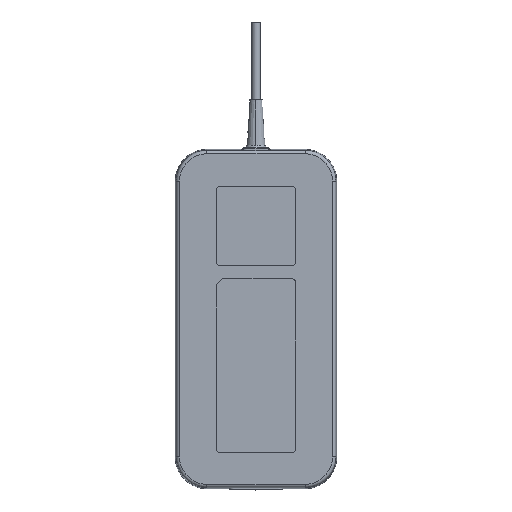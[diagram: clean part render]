
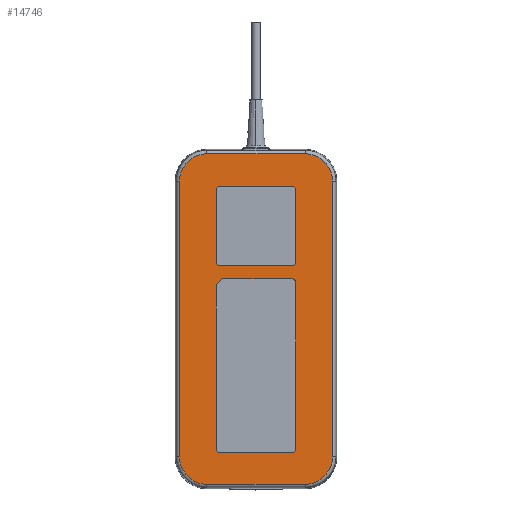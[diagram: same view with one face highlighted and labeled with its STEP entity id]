
A CAD part, front view. The second image highlights one B-rep face of the part: STEP entity #14746.
In plain terms, the highlighted planar face has unit normal (0, -1, 0).
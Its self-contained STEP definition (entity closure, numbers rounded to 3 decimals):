
#12128=CARTESIAN_POINT('',(61.2,0.,15.));
#12129=DIRECTION('',(0.,1.,0.));
#12130=DIRECTION('',(1.,0.,0.));
#12131=AXIS2_PLACEMENT_3D('',#12128,#12129,#12130);
#12133=CARTESIAN_POINT('',(15.,0.,15.));
#12134=DIRECTION('',(0.,1.,0.));
#12135=DIRECTION('',(0.,0.,-1.));
#12136=AXIS2_PLACEMENT_3D('',#12133,#12134,#12135);
#12138=CARTESIAN_POINT('',(15.,0.,145.));
#12139=DIRECTION('',(0.,1.,0.));
#12140=DIRECTION('',(-1.,0.,0.));
#12141=AXIS2_PLACEMENT_3D('',#12138,#12139,#12140);
#12143=CARTESIAN_POINT('',(61.2,0.,145.));
#12144=DIRECTION('',(0.,1.,0.));
#12145=DIRECTION('',(0.,0.,1.));
#12146=AXIS2_PLACEMENT_3D('',#12143,#12144,#12145);
#12148=CARTESIAN_POINT('',(54.85,0.,140.573));
#12149=DIRECTION('',(0.,-1.,0.));
#12150=DIRECTION('',(1.,0.,0.));
#12151=AXIS2_PLACEMENT_3D('',#12148,#12149,#12150);
#12153=DIRECTION('',(-1.,0.,0.));
#12154=VECTOR('',#12153,33.5);
#12155=CARTESIAN_POINT('',(54.85,0.,142.573));
#12156=LINE('',#12155,#12154);
#12157=CARTESIAN_POINT('',(21.35,0.,140.573));
#12158=DIRECTION('',(0.,-1.,0.));
#12159=DIRECTION('',(0.,0.,1.));
#12160=AXIS2_PLACEMENT_3D('',#12157,#12158,#12159);
#12162=DIRECTION('',(0.,0.,-1.));
#12163=VECTOR('',#12162,33.5);
#12164=CARTESIAN_POINT('',(19.35,0.,140.573));
#12165=LINE('',#12164,#12163);
#12166=CARTESIAN_POINT('',(21.35,0.,107.073));
#12167=DIRECTION('',(0.,-1.,0.));
#12168=DIRECTION('',(-1.,0.,0.));
#12169=AXIS2_PLACEMENT_3D('',#12166,#12167,#12168);
#12171=DIRECTION('',(1.,0.,0.));
#12172=VECTOR('',#12171,33.5);
#12173=CARTESIAN_POINT('',(21.35,0.,105.073));
#12174=LINE('',#12173,#12172);
#12175=CARTESIAN_POINT('',(54.85,0.,107.073));
#12176=DIRECTION('',(0.,-1.,0.));
#12177=DIRECTION('',(0.,0.,-1.));
#12178=AXIS2_PLACEMENT_3D('',#12175,#12176,#12177);
#12180=DIRECTION('',(0.,0.,1.));
#12181=VECTOR('',#12180,33.5);
#12182=CARTESIAN_POINT('',(56.85,0.,107.073));
#12183=LINE('',#12182,#12181);
#12184=DIRECTION('',(-0.707,0.,-0.707));
#12185=VECTOR('',#12184,4.243);
#12186=CARTESIAN_POINT('',(22.35,0.,99.073));
#12187=LINE('',#12186,#12185);
#12188=DIRECTION('',(0.,0.,-1.));
#12189=VECTOR('',#12188,77.);
#12190=CARTESIAN_POINT('',(19.35,0.,96.073));
#12191=LINE('',#12190,#12189);
#12192=CARTESIAN_POINT('',(21.35,0.,19.073));
#12193=DIRECTION('',(0.,-1.,0.));
#12194=DIRECTION('',(-1.,0.,0.));
#12195=AXIS2_PLACEMENT_3D('',#12192,#12193,#12194);
#12197=DIRECTION('',(1.,0.,0.));
#12198=VECTOR('',#12197,33.5);
#12199=CARTESIAN_POINT('',(21.35,0.,17.073));
#12200=LINE('',#12199,#12198);
#12201=CARTESIAN_POINT('',(54.85,0.,19.073));
#12202=DIRECTION('',(0.,-1.,0.));
#12203=DIRECTION('',(0.,0.,-1.));
#12204=AXIS2_PLACEMENT_3D('',#12201,#12202,#12203);
#12206=DIRECTION('',(0.,0.,1.));
#12207=VECTOR('',#12206,78.);
#12208=CARTESIAN_POINT('',(56.85,0.,19.073));
#12209=LINE('',#12208,#12207);
#12210=CARTESIAN_POINT('',(54.85,0.,97.073));
#12211=DIRECTION('',(0.,-1.,0.));
#12212=DIRECTION('',(1.,0.,0.));
#12213=AXIS2_PLACEMENT_3D('',#12210,#12211,#12212);
#12215=DIRECTION('',(-1.,0.,0.));
#12216=VECTOR('',#12215,32.5);
#12217=CARTESIAN_POINT('',(54.85,0.,99.073));
#12218=LINE('',#12217,#12216);
#12219=DIRECTION('',(0.,0.,1.));
#12220=VECTOR('',#12219,130.);
#12221=CARTESIAN_POINT('',(74.127,0.,15.));
#12222=LINE('',#12221,#12220);
#12242=DIRECTION('',(1.,0.,0.));
#12243=VECTOR('',#12242,46.2);
#12244=CARTESIAN_POINT('',(15.,0.,2.073));
#12245=LINE('',#12244,#12243);
#13969=DIRECTION('',(0.,0.,-1.));
#13970=VECTOR('',#13969,130.);
#13971=CARTESIAN_POINT('',(2.073,0.,145.));
#13972=LINE('',#13971,#13970);
#13992=DIRECTION('',(-1.,0.,0.));
#13993=VECTOR('',#13992,46.2);
#13994=CARTESIAN_POINT('',(61.2,0.,157.927));
#13995=LINE('',#13994,#13993);
#14139=CARTESIAN_POINT('',(22.35,0.,99.073));
#14140=CARTESIAN_POINT('',(19.35,0.,96.073));
#14141=VERTEX_POINT('',#14139);
#14142=VERTEX_POINT('',#14140);
#14143=CARTESIAN_POINT('',(74.127,0.,15.));
#14144=CARTESIAN_POINT('',(74.127,0.,145.));
#14145=VERTEX_POINT('',#14143);
#14146=VERTEX_POINT('',#14144);
#14147=CARTESIAN_POINT('',(61.2,0.,2.073));
#14148=VERTEX_POINT('',#14147);
#14149=CARTESIAN_POINT('',(15.,0.,2.073));
#14150=VERTEX_POINT('',#14149);
#14151=CARTESIAN_POINT('',(2.073,0.,15.));
#14152=VERTEX_POINT('',#14151);
#14153=CARTESIAN_POINT('',(2.073,0.,145.));
#14154=VERTEX_POINT('',#14153);
#14155=CARTESIAN_POINT('',(15.,0.,157.927));
#14156=VERTEX_POINT('',#14155);
#14157=CARTESIAN_POINT('',(61.2,0.,157.927));
#14158=VERTEX_POINT('',#14157);
#14159=CARTESIAN_POINT('',(56.85,0.,140.573));
#14160=CARTESIAN_POINT('',(54.85,0.,142.573));
#14161=VERTEX_POINT('',#14159);
#14162=VERTEX_POINT('',#14160);
#14163=CARTESIAN_POINT('',(21.35,0.,142.573));
#14164=VERTEX_POINT('',#14163);
#14165=CARTESIAN_POINT('',(19.35,0.,140.573));
#14166=VERTEX_POINT('',#14165);
#14167=CARTESIAN_POINT('',(19.35,0.,107.073));
#14168=VERTEX_POINT('',#14167);
#14169=CARTESIAN_POINT('',(21.35,0.,105.073));
#14170=VERTEX_POINT('',#14169);
#14171=CARTESIAN_POINT('',(54.85,0.,105.073));
#14172=VERTEX_POINT('',#14171);
#14173=CARTESIAN_POINT('',(56.85,0.,107.073));
#14174=VERTEX_POINT('',#14173);
#14175=CARTESIAN_POINT('',(19.35,0.,19.073));
#14176=VERTEX_POINT('',#14175);
#14177=CARTESIAN_POINT('',(21.35,0.,17.073));
#14178=VERTEX_POINT('',#14177);
#14179=CARTESIAN_POINT('',(54.85,0.,17.073));
#14180=VERTEX_POINT('',#14179);
#14181=CARTESIAN_POINT('',(56.85,0.,19.073));
#14182=VERTEX_POINT('',#14181);
#14183=CARTESIAN_POINT('',(56.85,0.,97.073));
#14184=VERTEX_POINT('',#14183);
#14185=CARTESIAN_POINT('',(54.85,0.,99.073));
#14186=VERTEX_POINT('',#14185);
#14688=CARTESIAN_POINT('',(15.,0.,15.));
#14689=DIRECTION('',(0.,-1.,0.));
#14690=DIRECTION('',(0.,0.,-1.));
#14691=AXIS2_PLACEMENT_3D('',#14688,#14689,#14690);
#14692=PLANE('',#14691);
#14694=ORIENTED_EDGE('',*,*,#14693,.F.);
#14696=ORIENTED_EDGE('',*,*,#14695,.T.);
#14698=ORIENTED_EDGE('',*,*,#14697,.F.);
#14700=ORIENTED_EDGE('',*,*,#14699,.T.);
#14702=ORIENTED_EDGE('',*,*,#14701,.F.);
#14704=ORIENTED_EDGE('',*,*,#14703,.T.);
#14706=ORIENTED_EDGE('',*,*,#14705,.F.);
#14708=ORIENTED_EDGE('',*,*,#14707,.T.);
#14709=EDGE_LOOP('',(#14694,#14696,#14698,#14700,#14702,#14704,#14706,#14708));
#14710=FACE_OUTER_BOUND('',#14709,.F.);
#14712=ORIENTED_EDGE('',*,*,#14711,.T.);
#14714=ORIENTED_EDGE('',*,*,#14713,.T.);
#14716=ORIENTED_EDGE('',*,*,#14715,.T.);
#14718=ORIENTED_EDGE('',*,*,#14717,.T.);
#14720=ORIENTED_EDGE('',*,*,#14719,.T.);
#14722=ORIENTED_EDGE('',*,*,#14721,.T.);
#14724=ORIENTED_EDGE('',*,*,#14723,.T.);
#14726=ORIENTED_EDGE('',*,*,#14725,.T.);
#14727=EDGE_LOOP('',(#14712,#14714,#14716,#14718,#14720,#14722,#14724,#14726));
#14728=FACE_BOUND('',#14727,.F.);
#14729=ORIENTED_EDGE('',*,*,#14678,.T.);
#14731=ORIENTED_EDGE('',*,*,#14730,.T.);
#14733=ORIENTED_EDGE('',*,*,#14732,.T.);
#14735=ORIENTED_EDGE('',*,*,#14734,.T.);
#14737=ORIENTED_EDGE('',*,*,#14736,.T.);
#14739=ORIENTED_EDGE('',*,*,#14738,.T.);
#14741=ORIENTED_EDGE('',*,*,#14740,.T.);
#14743=ORIENTED_EDGE('',*,*,#14742,.T.);
#14744=EDGE_LOOP('',(#14729,#14731,#14733,#14735,#14737,#14739,#14741,#14743));
#14745=FACE_BOUND('',#14744,.F.);
#12132=CIRCLE('',#12131,12.927);
#12137=CIRCLE('',#12136,12.927);
#12142=CIRCLE('',#12141,12.927);
#12147=CIRCLE('',#12146,12.927);
#12152=CIRCLE('',#12151,2.);
#12161=CIRCLE('',#12160,2.);
#12170=CIRCLE('',#12169,2.);
#12179=CIRCLE('',#12178,2.);
#12196=CIRCLE('',#12195,2.);
#12205=CIRCLE('',#12204,2.);
#12214=CIRCLE('',#12213,2.);
#14678=EDGE_CURVE('',#14141,#14142,#12187,.T.);
#14693=EDGE_CURVE('',#14145,#14146,#12222,.T.);
#14695=EDGE_CURVE('',#14145,#14148,#12132,.T.);
#14697=EDGE_CURVE('',#14150,#14148,#12245,.T.);
#14699=EDGE_CURVE('',#14150,#14152,#12137,.T.);
#14701=EDGE_CURVE('',#14154,#14152,#13972,.T.);
#14703=EDGE_CURVE('',#14154,#14156,#12142,.T.);
#14705=EDGE_CURVE('',#14158,#14156,#13995,.T.);
#14707=EDGE_CURVE('',#14158,#14146,#12147,.T.);
#14711=EDGE_CURVE('',#14161,#14162,#12152,.T.);
#14713=EDGE_CURVE('',#14162,#14164,#12156,.T.);
#14715=EDGE_CURVE('',#14164,#14166,#12161,.T.);
#14717=EDGE_CURVE('',#14166,#14168,#12165,.T.);
#14719=EDGE_CURVE('',#14168,#14170,#12170,.T.);
#14721=EDGE_CURVE('',#14170,#14172,#12174,.T.);
#14723=EDGE_CURVE('',#14172,#14174,#12179,.T.);
#14725=EDGE_CURVE('',#14174,#14161,#12183,.T.);
#14730=EDGE_CURVE('',#14142,#14176,#12191,.T.);
#14732=EDGE_CURVE('',#14176,#14178,#12196,.T.);
#14734=EDGE_CURVE('',#14178,#14180,#12200,.T.);
#14736=EDGE_CURVE('',#14180,#14182,#12205,.T.);
#14738=EDGE_CURVE('',#14182,#14184,#12209,.T.);
#14740=EDGE_CURVE('',#14184,#14186,#12214,.T.);
#14742=EDGE_CURVE('',#14186,#14141,#12218,.T.);
#14746=ADVANCED_FACE('',(#14710,#14728,#14745),#14692,.T.);
